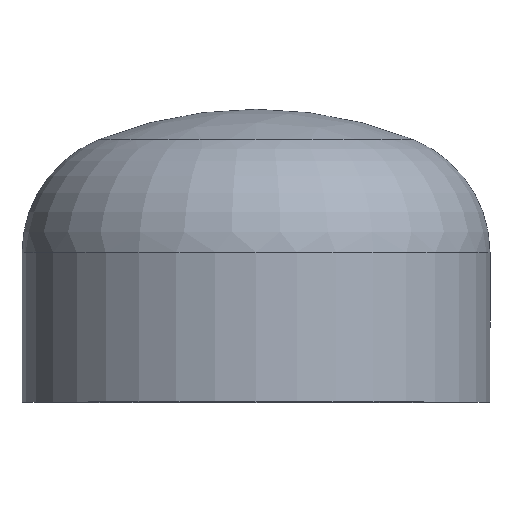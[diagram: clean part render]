
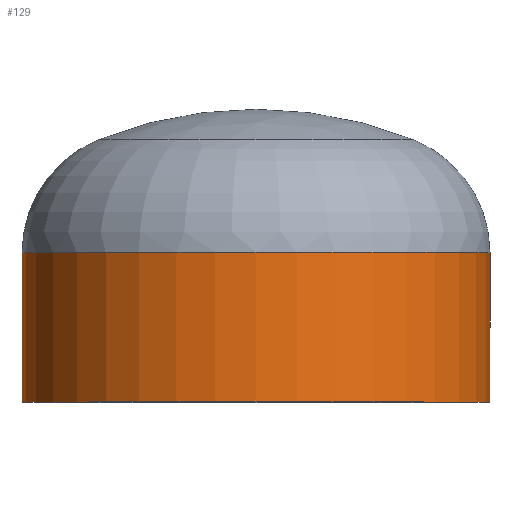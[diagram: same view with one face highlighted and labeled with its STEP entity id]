
A CAD part, top view. The second image highlights one B-rep face of the part: STEP entity #129.
In plain terms, the highlighted cylindrical face has radius 109.55 mm (diameter 219.1 mm), a partial arc.
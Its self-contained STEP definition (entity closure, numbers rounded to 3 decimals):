
#16 = ORIENTED_EDGE ( 'NONE', *, *, #378, .F. ) ;
#25 = VERTEX_POINT ( 'NONE', #270 ) ;
#39 = CARTESIAN_POINT ( 'NONE',  ( 0., 0., 0. ) ) ;
#47 = ORIENTED_EDGE ( 'NONE', *, *, #121, .T. ) ;
#49 = VERTEX_POINT ( 'NONE', #186 ) ;
#53 = ORIENTED_EDGE ( 'NONE', *, *, #122, .T. ) ;
#58 = VERTEX_POINT ( 'NONE', #207 ) ;
#79 = VERTEX_POINT ( 'NONE', #187 ) ;
#93 = EDGE_LOOP ( 'NONE', ( #53, #47, #104, #16 ) ) ;
#99 = AXIS2_PLACEMENT_3D ( 'NONE', #39, #166, #220 ) ;
#104 = ORIENTED_EDGE ( 'NONE', *, *, #357, .F. ) ;
#110 = DIRECTION ( 'NONE',  ( 0., -1., 0. ) ) ;
#117 = AXIS2_PLACEMENT_3D ( 'NONE', #169, #168, #158 ) ;
#118 = VECTOR ( 'NONE', #224, 1000. ) ;
#121 = EDGE_CURVE ( 'NONE', #79, #58, #385, .T. ) ;
#122 = EDGE_CURVE ( 'NONE', #25, #79, #394, .T. ) ;
#129 = ADVANCED_FACE ( 'NONE', ( #197 ), #305, .T. ) ;
#158 = DIRECTION ( 'NONE',  ( 1., 0., 0. ) ) ;
#166 = DIRECTION ( 'NONE',  ( 0., -1., 0. ) ) ;
#168 = DIRECTION ( 'NONE',  ( 0., -1., 0. ) ) ;
#169 = CARTESIAN_POINT ( 'NONE',  ( 0., 70., 0. ) ) ;
#181 = CARTESIAN_POINT ( 'NONE',  ( -109.55, 0., 0. ) ) ;
#186 = CARTESIAN_POINT ( 'NONE',  ( 109.55, 0., 0. ) ) ;
#187 = CARTESIAN_POINT ( 'NONE',  ( -109.55, 70., 0. ) ) ;
#197 = FACE_OUTER_BOUND ( 'NONE', #93, .T. ) ;
#207 = CARTESIAN_POINT ( 'NONE',  ( -109.55, 0., 0. ) ) ;
#220 = DIRECTION ( 'NONE',  ( 1., 0., 0. ) ) ;
#224 = DIRECTION ( 'NONE',  ( 0., -1., 0. ) ) ;
#270 = CARTESIAN_POINT ( 'NONE',  ( 109.55, 70., 0. ) ) ;
#276 = DIRECTION ( 'NONE',  ( 1., 0., 0. ) ) ;
#278 = DIRECTION ( 'NONE',  ( 0., -1., 0. ) ) ;
#279 = CARTESIAN_POINT ( 'NONE',  ( 0., 0., 0. ) ) ;
#285 = CARTESIAN_POINT ( 'NONE',  ( 109.55, 0., 0. ) ) ;
#300 = AXIS2_PLACEMENT_3D ( 'NONE', #279, #278, #276 ) ;
#305 = CYLINDRICAL_SURFACE ( 'NONE', #99, 109.55 ) ;
#308 = VECTOR ( 'NONE', #110, 1000. ) ;
#357 = EDGE_CURVE ( 'NONE', #49, #58, #388, .T. ) ;
#378 = EDGE_CURVE ( 'NONE', #25, #49, #380, .T. ) ;
#380 = LINE ( 'NONE', #285, #308 ) ;
#385 = LINE ( 'NONE', #181, #118 ) ;
#388 = CIRCLE ( 'NONE', #300, 109.55 ) ;
#394 = CIRCLE ( 'NONE', #117, 109.55 ) ;
